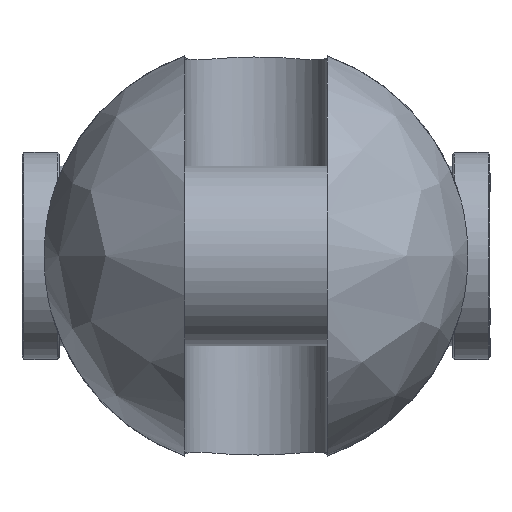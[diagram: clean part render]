
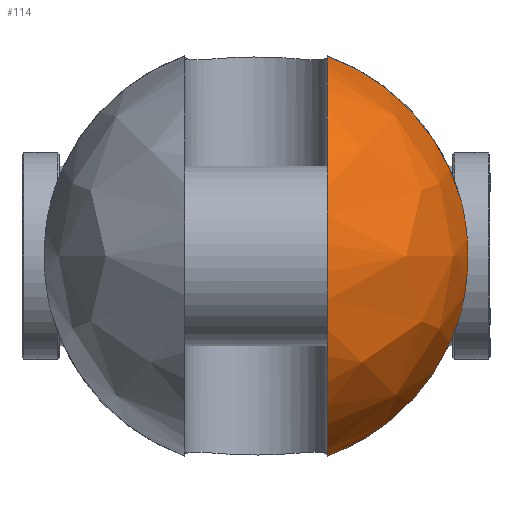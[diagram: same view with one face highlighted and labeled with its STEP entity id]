
A CAD part, left-side view. The second image highlights one B-rep face of the part: STEP entity #114.
In plain terms, the highlighted free-form (B-spline) face has degree [2, 2] with [9, 5] control points.
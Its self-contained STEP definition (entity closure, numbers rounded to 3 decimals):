
#114=ADVANCED_FACE('',(#202),#1530,.T.);
#202=FACE_OUTER_BOUND('',#302,.T.);
#302=EDGE_LOOP('',(#744,#745,#746,#747));
#744=ORIENTED_EDGE('',*,*,#1001,.T.);
#745=ORIENTED_EDGE('',*,*,#998,.F.);
#746=ORIENTED_EDGE('',*,*,#1018,.T.);
#747=ORIENTED_EDGE('',*,*,#990,.F.);
#990=EDGE_CURVE('',#1420,#1421,#1252,.T.);
#998=EDGE_CURVE('',#1428,#1429,#1253,.T.);
#1001=EDGE_CURVE('',#1420,#1429,#1255,.T.);
#1018=EDGE_CURVE('',#1428,#1421,#1127,.T.);
#1127=B_SPLINE_CURVE_WITH_KNOTS('',3,(#3647,#3648,#3649,#3650,#3651,#3652,
#3653,#3654,#3655,#3656,#3657,#3658,#3659,#3660),.UNSPECIFIED.,.F.,.F.,
(4,2,2,2,2,2,4),(0.,4.397,10.811,17.225,23.64,
30.054,34.451),.UNSPECIFIED.);
#1252=(
BOUNDED_CURVE()
B_SPLINE_CURVE(2,(#3497,#3498,#3499),.UNSPECIFIED.,.F.,.F.)
B_SPLINE_CURVE_WITH_KNOTS((3,3),(0.,60.345),.UNSPECIFIED.)
CURVE()
GEOMETRIC_REPRESENTATION_ITEM()
RATIONAL_B_SPLINE_CURVE((1.,0.886,1.))
REPRESENTATION_ITEM('')
);
#1253=(
BOUNDED_CURVE()
B_SPLINE_CURVE(2,(#3554,#3555,#3556),.UNSPECIFIED.,.F.,.F.)
B_SPLINE_CURVE_WITH_KNOTS((3,3),(0.,60.345),.UNSPECIFIED.)
CURVE()
GEOMETRIC_REPRESENTATION_ITEM()
RATIONAL_B_SPLINE_CURVE((1.,0.886,1.))
REPRESENTATION_ITEM('')
);
#1255=(
BOUNDED_CURVE()
B_SPLINE_CURVE(2,(#3562,#3563,#3564,#3565,#3566),.UNSPECIFIED.,.F.,.F.)
B_SPLINE_CURVE_WITH_KNOTS((3,2,3),(-184.934,-92.467,
0.),.UNSPECIFIED.)
CURVE()
GEOMETRIC_REPRESENTATION_ITEM()
RATIONAL_B_SPLINE_CURVE((1.,0.707,1.,0.707,1.))
REPRESENTATION_ITEM('')
);
#1420=VERTEX_POINT('',#3297);
#1421=VERTEX_POINT('',#3298);
#1428=VERTEX_POINT('',#3305);
#1429=VERTEX_POINT('',#3306);
#1530=(
BOUNDED_SURFACE()
B_SPLINE_SURFACE(2,2,((#3169,#3170,#3171,#3172,#3173),(#3174,#3175,#3176,
#3177,#3178),(#3179,#3180,#3181,#3182,#3183),(#3184,#3185,#3186,#3187,#3188),
(#3189,#3190,#3191,#3192,#3193),(#3194,#3195,#3196,#3197,#3198),(#3199,
#3200,#3201,#3202,#3203),(#3204,#3205,#3206,#3207,#3208),(#3209,#3210,#3211,
#3212,#3213)),.UNSPECIFIED.,.T.,.F.,.F.)
B_SPLINE_SURFACE_WITH_KNOTS((3,2,2,2,3),(3,2,3),(0.,98.175,196.35,
294.524,392.699),(0.,98.175,196.35),
 .UNSPECIFIED.)
GEOMETRIC_REPRESENTATION_ITEM()
RATIONAL_B_SPLINE_SURFACE(((1.,0.707,1.,0.707,1.),
(0.707,0.5,0.707,0.5,0.707),(1.,0.707,
1.,0.707,1.),(0.707,0.5,0.707,0.5,0.707),
(1.,0.707,1.,0.707,1.),(0.707,0.5,0.707,
0.5,0.707),(1.,0.707,1.,0.707,1.),(0.707,
0.5,0.707,0.5,0.707),(1.,0.707,1.,0.707,
1.)))
REPRESENTATION_ITEM('')
SURFACE()
);
#3169=CARTESIAN_POINT('',(-89.5,0.,0.));
#3170=CARTESIAN_POINT('',(-89.5,62.5,0.));
#3171=CARTESIAN_POINT('',(-27.,62.5,0.));
#3172=CARTESIAN_POINT('',(35.5,62.5,0.));
#3173=CARTESIAN_POINT('',(35.5,0.,0.));
#3174=CARTESIAN_POINT('',(-89.5,0.,0.));
#3175=CARTESIAN_POINT('',(-89.5,62.5,62.5));
#3176=CARTESIAN_POINT('',(-27.,62.5,62.5));
#3177=CARTESIAN_POINT('',(35.5,62.5,62.5));
#3178=CARTESIAN_POINT('',(35.5,0.,0.));
#3179=CARTESIAN_POINT('',(-89.5,0.,0.));
#3180=CARTESIAN_POINT('',(-89.5,0.,62.5));
#3181=CARTESIAN_POINT('',(-27.,0.,62.5));
#3182=CARTESIAN_POINT('',(35.5,0.,62.5));
#3183=CARTESIAN_POINT('',(35.5,0.,0.));
#3184=CARTESIAN_POINT('',(-89.5,0.,0.));
#3185=CARTESIAN_POINT('',(-89.5,-62.5,62.5));
#3186=CARTESIAN_POINT('',(-27.,-62.5,62.5));
#3187=CARTESIAN_POINT('',(35.5,-62.5,62.5));
#3188=CARTESIAN_POINT('',(35.5,0.,0.));
#3189=CARTESIAN_POINT('',(-89.5,0.,0.));
#3190=CARTESIAN_POINT('',(-89.5,-62.5,0.));
#3191=CARTESIAN_POINT('',(-27.,-62.5,0.));
#3192=CARTESIAN_POINT('',(35.5,-62.5,0.));
#3193=CARTESIAN_POINT('',(35.5,0.,0.));
#3194=CARTESIAN_POINT('',(-89.5,0.,0.));
#3195=CARTESIAN_POINT('',(-89.5,-62.5,-62.5));
#3196=CARTESIAN_POINT('',(-27.,-62.5,-62.5));
#3197=CARTESIAN_POINT('',(35.5,-62.5,-62.5));
#3198=CARTESIAN_POINT('',(35.5,0.,0.));
#3199=CARTESIAN_POINT('',(-89.5,0.,0.));
#3200=CARTESIAN_POINT('',(-89.5,0.,-62.5));
#3201=CARTESIAN_POINT('',(-27.,0.,-62.5));
#3202=CARTESIAN_POINT('',(35.5,0.,-62.5));
#3203=CARTESIAN_POINT('',(35.5,0.,0.));
#3204=CARTESIAN_POINT('',(-89.5,0.,0.));
#3205=CARTESIAN_POINT('',(-89.5,62.5,-62.5));
#3206=CARTESIAN_POINT('',(-27.,62.5,-62.5));
#3207=CARTESIAN_POINT('',(35.5,62.5,-62.5));
#3208=CARTESIAN_POINT('',(35.5,0.,0.));
#3209=CARTESIAN_POINT('',(-89.5,0.,0.));
#3210=CARTESIAN_POINT('',(-89.5,62.5,0.));
#3211=CARTESIAN_POINT('',(-27.,62.5,0.));
#3212=CARTESIAN_POINT('',(35.5,62.5,0.));
#3213=CARTESIAN_POINT('',(35.5,0.,0.));
#3297=CARTESIAN_POINT('',(-27.,-21.,58.866));
#3298=CARTESIAN_POINT('',(-27.,-60.357,16.225));
#3305=CARTESIAN_POINT('',(-27.,-60.357,-16.225));
#3306=CARTESIAN_POINT('',(-27.,-21.,-58.866));
#3497=CARTESIAN_POINT('',(-27.,-21.,58.866));
#3498=CARTESIAN_POINT('',(-27.,-51.853,47.86));
#3499=CARTESIAN_POINT('',(-27.,-60.357,16.225));
#3554=CARTESIAN_POINT('',(-27.,-60.357,-16.225));
#3555=CARTESIAN_POINT('',(-27.,-51.853,-47.86));
#3556=CARTESIAN_POINT('',(-27.,-21.,-58.866));
#3562=CARTESIAN_POINT('',(-27.,-21.,58.866));
#3563=CARTESIAN_POINT('',(-85.866,-21.,58.866));
#3564=CARTESIAN_POINT('',(-85.866,-21.,0.));
#3565=CARTESIAN_POINT('',(-85.866,-21.,-58.866));
#3566=CARTESIAN_POINT('',(-27.,-21.,-58.866));
#3647=CARTESIAN_POINT('',(-27.,-60.357,-16.225));
#3648=CARTESIAN_POINT('',(-27.742,-60.689,-14.99));
#3649=CARTESIAN_POINT('',(-28.407,-60.984,-13.691));
#3650=CARTESIAN_POINT('',(-29.815,-61.605,-10.386));
#3651=CARTESIAN_POINT('',(-30.454,-61.883,-8.326));
#3652=CARTESIAN_POINT('',(-31.297,-62.25,-4.157));
#3653=CARTESIAN_POINT('',(-31.5,-62.338,-2.048));
#3654=CARTESIAN_POINT('',(-31.5,-62.338,2.048));
#3655=CARTESIAN_POINT('',(-31.297,-62.25,4.157));
#3656=CARTESIAN_POINT('',(-30.454,-61.883,8.326));
#3657=CARTESIAN_POINT('',(-29.815,-61.605,10.386));
#3658=CARTESIAN_POINT('',(-28.407,-60.984,13.691));
#3659=CARTESIAN_POINT('',(-27.742,-60.689,14.99));
#3660=CARTESIAN_POINT('',(-27.,-60.357,16.225));
